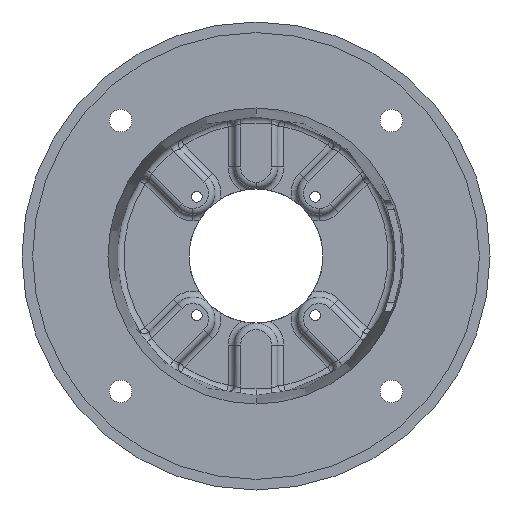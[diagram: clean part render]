
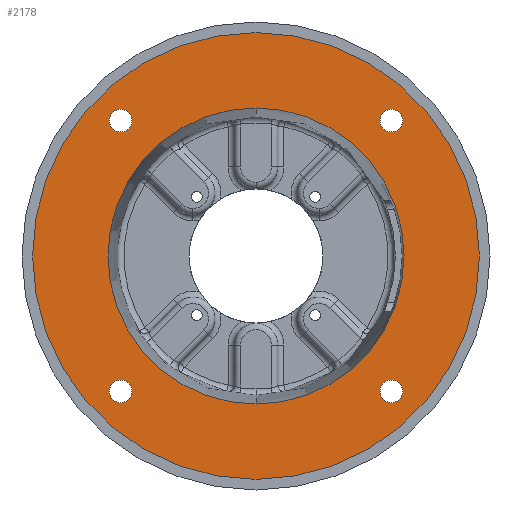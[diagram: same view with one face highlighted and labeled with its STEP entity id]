
A CAD part, front view. The second image highlights one B-rep face of the part: STEP entity #2178.
In plain terms, the highlighted planar face has unit normal (0, -1, 0).
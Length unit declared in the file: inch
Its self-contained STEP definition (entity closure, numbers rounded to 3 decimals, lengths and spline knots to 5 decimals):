
#40 = DIRECTION ( 'NONE',  ( 0., -1., 0. ) ) ;
#55 = PLANE ( 'NONE',  #6312 ) ;
#340 = CARTESIAN_POINT ( 'NONE',  ( -3.18198, 0.18, 3.18198 ) ) ;
#590 = DIRECTION ( 'NONE',  ( 0., -1., 0. ) ) ;
#617 = EDGE_CURVE ( 'NONE', #12236, #6813, #3338, .T. ) ;
#910 = CIRCLE ( 'NONE', #12882, 0.26562 ) ;
#1065 = DIRECTION ( 'NONE',  ( 0., -1., 0. ) ) ;
#1170 = DIRECTION ( 'NONE',  ( 0., 0., -1. ) ) ;
#1374 = EDGE_LOOP ( 'NONE', ( #13750, #1475 ) ) ;
#1406 = FACE_BOUND ( 'NONE', #9305, .T. ) ;
#1446 = DIRECTION ( 'NONE',  ( 0., 0., -1. ) ) ;
#1475 = ORIENTED_EDGE ( 'NONE', *, *, #8532, .F. ) ;
#1629 = AXIS2_PLACEMENT_3D ( 'NONE', #7588, #1065, #8653 ) ;
#1763 = FACE_BOUND ( 'NONE', #7495, .T. ) ;
#1812 = VERTEX_POINT ( 'NONE', #5270 ) ;
#1856 = VERTEX_POINT ( 'NONE', #12734 ) ;
#1924 = EDGE_CURVE ( 'NONE', #11373, #6286, #3151, .T. ) ;
#2178 = ADVANCED_FACE ( 'NONE', ( #6864, #4345, #12393, #1406, #3984, #1763 ), #55, .T. ) ;
#2596 = DIRECTION ( 'NONE',  ( 0., 1., 0. ) ) ;
#2598 = EDGE_LOOP ( 'NONE', ( #10752, #12264 ) ) ;
#2607 = CIRCLE ( 'NONE', #9288, 0.26562 ) ;
#2708 = ORIENTED_EDGE ( 'NONE', *, *, #7984, .F. ) ;
#2726 = DIRECTION ( 'NONE',  ( 0., 0., -1. ) ) ;
#2746 = DIRECTION ( 'NONE',  ( 0., -1., 0. ) ) ;
#2763 = CARTESIAN_POINT ( 'NONE',  ( -3.18198, 0.18, -3.18198 ) ) ;
#2792 = ORIENTED_EDGE ( 'NONE', *, *, #1924, .T. ) ;
#3151 = CIRCLE ( 'NONE', #6570, 5.2505 ) ;
#3186 = ORIENTED_EDGE ( 'NONE', *, *, #4764, .T. ) ;
#3241 = DIRECTION ( 'NONE',  ( 0., -1., 0. ) ) ;
#3338 = CIRCLE ( 'NONE', #12727, 0.26562 ) ;
#3677 = AXIS2_PLACEMENT_3D ( 'NONE', #10986, #4684, #12010 ) ;
#3823 = CIRCLE ( 'NONE', #5397, 5.2505 ) ;
#3912 = ORIENTED_EDGE ( 'NONE', *, *, #13353, .F. ) ;
#3984 = FACE_OUTER_BOUND ( 'NONE', #11390, .T. ) ;
#4112 = CARTESIAN_POINT ( 'NONE',  ( 3.18198, 0.18, -3.44761 ) ) ;
#4218 = CARTESIAN_POINT ( 'NONE',  ( 3.18198, 0.18, 3.18198 ) ) ;
#4303 = CARTESIAN_POINT ( 'NONE',  ( 3.18198, 0.18, -2.91636 ) ) ;
#4345 = FACE_BOUND ( 'NONE', #1374, .T. ) ;
#4474 = CARTESIAN_POINT ( 'NONE',  ( 0., 0.18, 5.2505 ) ) ;
#4633 = ORIENTED_EDGE ( 'NONE', *, *, #7574, .T. ) ;
#4684 = DIRECTION ( 'NONE',  ( 0., 1., 0. ) ) ;
#4764 = EDGE_CURVE ( 'NONE', #10261, #9507, #7623, .T. ) ;
#4768 = CIRCLE ( 'NONE', #1629, 0.26562 ) ;
#4978 = ORIENTED_EDGE ( 'NONE', *, *, #617, .F. ) ;
#5270 = CARTESIAN_POINT ( 'NONE',  ( 3.18198, 0.18, 2.91636 ) ) ;
#5345 = DIRECTION ( 'NONE',  ( 0., 0., -1. ) ) ;
#5397 = AXIS2_PLACEMENT_3D ( 'NONE', #6181, #13444, #7232 ) ;
#5567 = CARTESIAN_POINT ( 'NONE',  ( 0., 0.18, 0. ) ) ;
#6076 = CARTESIAN_POINT ( 'NONE',  ( 3.18198, 0.18, 3.18198 ) ) ;
#6112 = CARTESIAN_POINT ( 'NONE',  ( -3.18198, 0.18, 3.18198 ) ) ;
#6181 = CARTESIAN_POINT ( 'NONE',  ( 0., 0.18, 0. ) ) ;
#6210 = CIRCLE ( 'NONE', #10049, 0.26562 ) ;
#6286 = VERTEX_POINT ( 'NONE', #4474 ) ;
#6312 = AXIS2_PLACEMENT_3D ( 'NONE', #5567, #7682, #1170 ) ;
#6521 = AXIS2_PLACEMENT_3D ( 'NONE', #9019, #2596, #10057 ) ;
#6570 = AXIS2_PLACEMENT_3D ( 'NONE', #6610, #40, #7668 ) ;
#6610 = CARTESIAN_POINT ( 'NONE',  ( 0., 0.18, 0. ) ) ;
#6728 = AXIS2_PLACEMENT_3D ( 'NONE', #4218, #11589, #5345 ) ;
#6734 = EDGE_CURVE ( 'NONE', #8133, #10279, #910, .T. ) ;
#6813 = VERTEX_POINT ( 'NONE', #7318 ) ;
#6864 = FACE_BOUND ( 'NONE', #11560, .T. ) ;
#7124 = CARTESIAN_POINT ( 'NONE',  ( 3.18198, 0.18, -3.18198 ) ) ;
#7129 = DIRECTION ( 'NONE',  ( 0., 0., -1. ) ) ;
#7165 = DIRECTION ( 'NONE',  ( 0., 0., -1. ) ) ;
#7232 = DIRECTION ( 'NONE',  ( 0., 0., -1. ) ) ;
#7318 = CARTESIAN_POINT ( 'NONE',  ( -3.18198, 0.18, -3.44761 ) ) ;
#7397 = AXIS2_PLACEMENT_3D ( 'NONE', #9636, #3241, #10671 ) ;
#7495 = EDGE_LOOP ( 'NONE', ( #3186, #12798 ) ) ;
#7574 = EDGE_CURVE ( 'NONE', #6286, #11373, #3823, .T. ) ;
#7588 = CARTESIAN_POINT ( 'NONE',  ( 3.18198, 0.18, -3.18198 ) ) ;
#7614 = CARTESIAN_POINT ( 'NONE',  ( 0., 0.18, 3.47973 ) ) ;
#7623 = CIRCLE ( 'NONE', #3677, 3.47973 ) ;
#7659 = VERTEX_POINT ( 'NONE', #8445 ) ;
#7668 = DIRECTION ( 'NONE',  ( 0., 0., -1. ) ) ;
#7682 = DIRECTION ( 'NONE',  ( 0., -1., 0. ) ) ;
#7954 = DIRECTION ( 'NONE',  ( 0., -1., 0. ) ) ;
#7970 = CIRCLE ( 'NONE', #7397, 0.26562 ) ;
#7981 = CARTESIAN_POINT ( 'NONE',  ( -3.18198, 0.18, 3.44761 ) ) ;
#7984 = EDGE_CURVE ( 'NONE', #1856, #12846, #6210, .T. ) ;
#8133 = VERTEX_POINT ( 'NONE', #4303 ) ;
#8209 = DIRECTION ( 'NONE',  ( 0., 0., -1. ) ) ;
#8438 = CARTESIAN_POINT ( 'NONE',  ( 0., 0.18, -5.2505 ) ) ;
#8445 = CARTESIAN_POINT ( 'NONE',  ( 3.18198, 0.18, 3.44761 ) ) ;
#8532 = EDGE_CURVE ( 'NONE', #7659, #1812, #10286, .T. ) ;
#8653 = DIRECTION ( 'NONE',  ( 0., 0., -1. ) ) ;
#8785 = CIRCLE ( 'NONE', #6521, 3.47973 ) ;
#8848 = EDGE_CURVE ( 'NONE', #1812, #7659, #2607, .T. ) ;
#9019 = CARTESIAN_POINT ( 'NONE',  ( 0., 0.18, 0. ) ) ;
#9027 = ORIENTED_EDGE ( 'NONE', *, *, #10559, .F. ) ;
#9288 = AXIS2_PLACEMENT_3D ( 'NONE', #6076, #13346, #7129 ) ;
#9305 = EDGE_LOOP ( 'NONE', ( #3912, #4978 ) ) ;
#9414 = CIRCLE ( 'NONE', #9559, 0.26562 ) ;
#9507 = VERTEX_POINT ( 'NONE', #7614 ) ;
#9559 = AXIS2_PLACEMENT_3D ( 'NONE', #340, #7954, #1446 ) ;
#9636 = CARTESIAN_POINT ( 'NONE',  ( -3.18198, 0.18, -3.18198 ) ) ;
#10049 = AXIS2_PLACEMENT_3D ( 'NONE', #6112, #13383, #7165 ) ;
#10057 = DIRECTION ( 'NONE',  ( 0., 0., -1. ) ) ;
#10261 = VERTEX_POINT ( 'NONE', #11436 ) ;
#10279 = VERTEX_POINT ( 'NONE', #4112 ) ;
#10286 = CIRCLE ( 'NONE', #6728, 0.26562 ) ;
#10420 = EDGE_CURVE ( 'NONE', #10279, #8133, #4768, .T. ) ;
#10559 = EDGE_CURVE ( 'NONE', #12846, #1856, #9414, .T. ) ;
#10623 = CARTESIAN_POINT ( 'NONE',  ( -3.18198, 0.18, -2.91636 ) ) ;
#10671 = DIRECTION ( 'NONE',  ( 0., 0., -1. ) ) ;
#10752 = ORIENTED_EDGE ( 'NONE', *, *, #10420, .F. ) ;
#10986 = CARTESIAN_POINT ( 'NONE',  ( 0., 0.18, 0. ) ) ;
#11373 = VERTEX_POINT ( 'NONE', #8438 ) ;
#11390 = EDGE_LOOP ( 'NONE', ( #2792, #4633 ) ) ;
#11436 = CARTESIAN_POINT ( 'NONE',  ( 0., 0.18, -3.47973 ) ) ;
#11560 = EDGE_LOOP ( 'NONE', ( #2708, #9027 ) ) ;
#11589 = DIRECTION ( 'NONE',  ( 0., -1., 0. ) ) ;
#12010 = DIRECTION ( 'NONE',  ( 0., 0., -1. ) ) ;
#12236 = VERTEX_POINT ( 'NONE', #10623 ) ;
#12264 = ORIENTED_EDGE ( 'NONE', *, *, #6734, .F. ) ;
#12393 = FACE_BOUND ( 'NONE', #2598, .T. ) ;
#12727 = AXIS2_PLACEMENT_3D ( 'NONE', #2763, #2746, #2726 ) ;
#12734 = CARTESIAN_POINT ( 'NONE',  ( -3.18198, 0.18, 2.91636 ) ) ;
#12798 = ORIENTED_EDGE ( 'NONE', *, *, #12844, .T. ) ;
#12844 = EDGE_CURVE ( 'NONE', #9507, #10261, #8785, .T. ) ;
#12846 = VERTEX_POINT ( 'NONE', #7981 ) ;
#12882 = AXIS2_PLACEMENT_3D ( 'NONE', #7124, #590, #8209 ) ;
#13346 = DIRECTION ( 'NONE',  ( 0., -1., 0. ) ) ;
#13353 = EDGE_CURVE ( 'NONE', #6813, #12236, #7970, .T. ) ;
#13383 = DIRECTION ( 'NONE',  ( 0., -1., 0. ) ) ;
#13444 = DIRECTION ( 'NONE',  ( 0., -1., 0. ) ) ;
#13750 = ORIENTED_EDGE ( 'NONE', *, *, #8848, .F. ) ;
